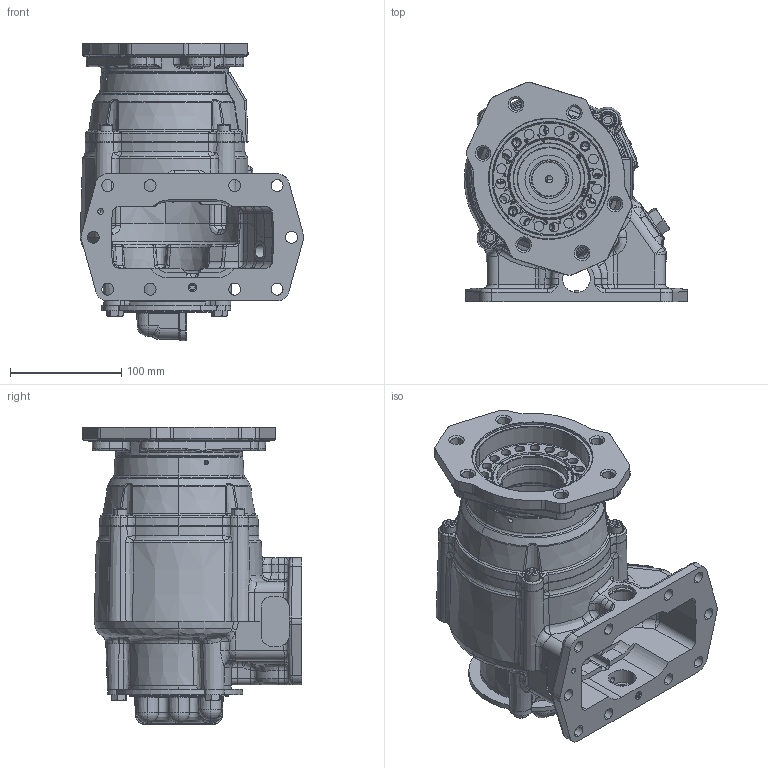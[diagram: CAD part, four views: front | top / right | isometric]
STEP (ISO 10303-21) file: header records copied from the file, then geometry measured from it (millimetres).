
FILE_DESCRIPTION (( 'STEP AP203' ), '1' );
FILE_NAME ('A30-A10XX-MX3BBPX.STEP', '2023-03-21T19:01:04', ( '' ), ( '' ), 'SwSTEP 2.0', 'SolidWorks 2021', '' );
FILE_SCHEMA (( 'CONFIG_CONTROL_DESIGN' ));
Length unit declared in the file: inch
Products named in the file (10): 15T65391DB3; RemoteMountRearCover; 19T36588_19T36588; 14T65388DB2; 25T35999TMP; A30-A10XX-MX3BBPX; 19T3314_RearCover_HexHeadCapScrew_19T33134; 01T43433_3Arrangement; 15T64348_DIECAST DESIGN; Part6^A30-A10XX-MX3BBPX
Assembly tree (13 placements, depth 2):
  A30-A10XX-MX3BBPX
    01T43433_3Arrangement
    14T65388DB2
    15T65391DB3
    19T36588_19T36588  x4
    RemoteMountRearCover
    15T64348_DIECAST DESIGN
    19T3314_RearCover_HexHeadCapScrew_19T33134  x3
    25T35999TMP
  Part6^A30-A10XX-MX3BBPX
Bounding box: 200.59 x 197.14 x 267.09 mm (x, y, z)
Volume: 676826.6 mm3; surface area: 425811.7 mm2
Topology: 15 solids, 27 shells, 3737 faces, 9674 edges, 6034 vertices
Faces by surface type: plane 1318, bspline 1244, cylinder 619, cone 354, torus 190, sphere 12
Entity records: 163823 total; most frequent: CARTESIAN_POINT 82478, ORIENTED_EDGE 18648, DIRECTION 13578, EDGE_CURVE 9333, VERTEX_POINT 5891, LINE 4532, VECTOR 4532, AXIS2_PLACEMENT_3D 4523
